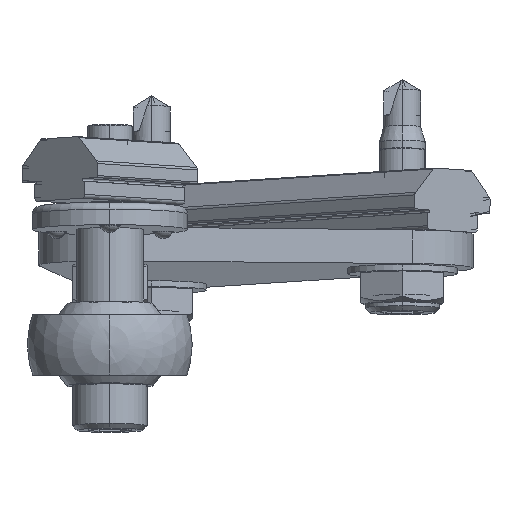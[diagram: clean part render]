
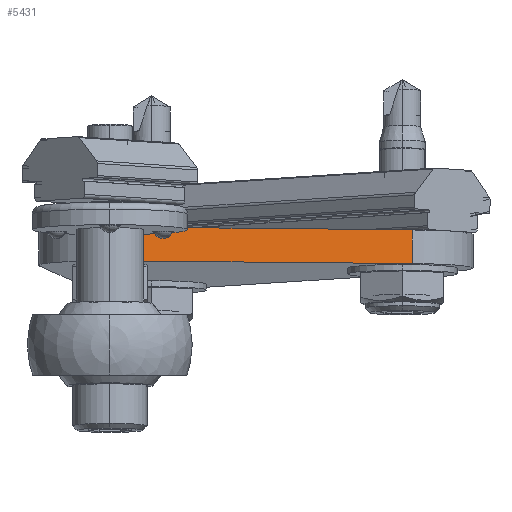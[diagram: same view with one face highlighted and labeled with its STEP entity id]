
A CAD part, front view. The second image highlights one B-rep face of the part: STEP entity #5431.
In plain terms, the highlighted planar face has unit normal (0.141, -0.988, 0.064) as drawn and (0.6, -0.8, 0) by its records, which use the part's own axes.
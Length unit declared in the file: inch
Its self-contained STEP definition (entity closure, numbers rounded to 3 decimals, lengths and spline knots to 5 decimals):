
#5099=DIRECTION('',(0.8,0.6,0.));
#5100=VECTOR('',#5099,1.5625);
#5101=CARTESIAN_POINT('',(0.225,-1.2375,0.));
#5102=LINE('',#5101,#5100);
#5164=DIRECTION('',(0.,0.,1.));
#5165=VECTOR('',#5164,0.179);
#5166=CARTESIAN_POINT('',(1.475,-0.3,0.));
#5167=LINE('',#5166,#5165);
#5176=DIRECTION('',(0.,0.,-1.));
#5177=VECTOR('',#5176,0.179);
#5178=CARTESIAN_POINT('',(0.225,-1.2375,0.179));
#5179=LINE('',#5178,#5177);
#5203=DIRECTION('',(-0.8,-0.6,0.));
#5204=VECTOR('',#5203,1.5625);
#5205=CARTESIAN_POINT('',(1.475,-0.3,0.179));
#5206=LINE('',#5205,#5204);
#5270=CARTESIAN_POINT('',(0.225,-1.2375,0.));
#5271=VERTEX_POINT('',#5270);
#5272=CARTESIAN_POINT('',(1.475,-0.3,0.));
#5273=VERTEX_POINT('',#5272);
#5305=CARTESIAN_POINT('',(1.475,-0.3,0.179));
#5307=VERTEX_POINT('',#5305);
#5308=CARTESIAN_POINT('',(0.225,-1.2375,0.179));
#5309=VERTEX_POINT('',#5308);
#5418=CARTESIAN_POINT('',(0.225,-1.2375,0.));
#5419=DIRECTION('',(0.6,-0.8,0.));
#5420=DIRECTION('',(0.8,0.6,0.));
#5421=AXIS2_PLACEMENT_3D('',#5418,#5419,#5420);
#5422=PLANE('',#5421);
#5423=ORIENTED_EDGE('',*,*,#5327,.F.);
#5425=ORIENTED_EDGE('',*,*,#5424,.F.);
#5427=ORIENTED_EDGE('',*,*,#5426,.F.);
#5428=ORIENTED_EDGE('',*,*,#5408,.F.);
#5429=EDGE_LOOP('',(#5423,#5425,#5427,#5428));
#5430=FACE_OUTER_BOUND('',#5429,.F.);
#5327=EDGE_CURVE('',#5271,#5273,#5102,.T.);
#5408=EDGE_CURVE('',#5273,#5307,#5167,.T.);
#5424=EDGE_CURVE('',#5309,#5271,#5179,.T.);
#5426=EDGE_CURVE('',#5307,#5309,#5206,.T.);
#5431=ADVANCED_FACE('',(#5430),#5422,.T.);
